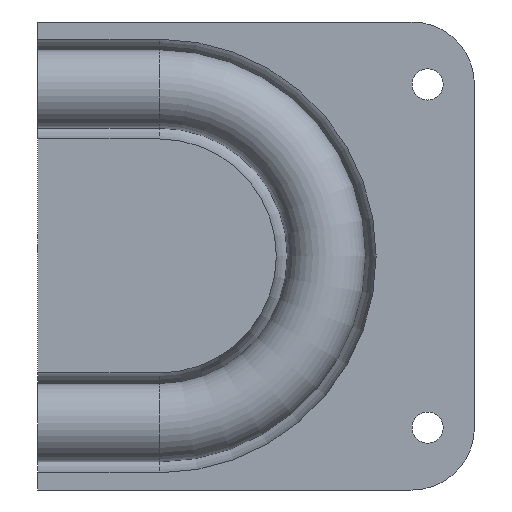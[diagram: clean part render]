
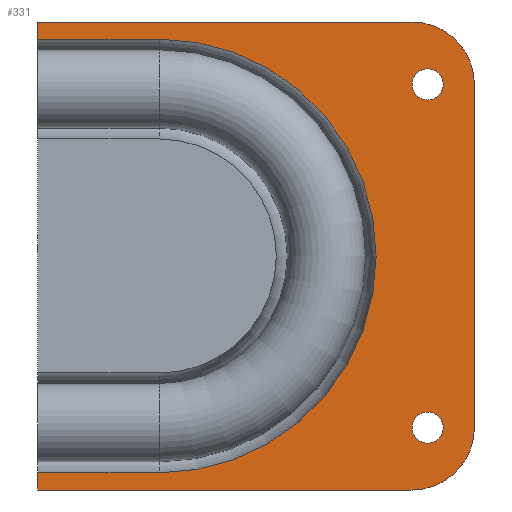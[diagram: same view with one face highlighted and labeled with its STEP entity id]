
A CAD part, left-side view. The second image highlights one B-rep face of the part: STEP entity #331.
In plain terms, the highlighted planar face has unit normal (-1, 0, 0).
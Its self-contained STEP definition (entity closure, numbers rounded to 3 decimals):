
#15=FACE_BOUND('',#67,.T.);
#16=FACE_BOUND('',#68,.T.);
#30=PLANE('',#379);
#47=FACE_OUTER_BOUND('',#66,.T.);
#66=EDGE_LOOP('',(#258,#259,#260,#261,#262,#263,#264,#265,#266,#267));
#67=EDGE_LOOP('',(#268));
#68=EDGE_LOOP('',(#269));
#86=LINE('',#553,#110);
#89=LINE('',#559,#113);
#90=LINE('',#563,#114);
#91=LINE('',#565,#115);
#92=LINE('',#567,#116);
#93=LINE('',#571,#117);
#94=LINE('',#572,#118);
#110=VECTOR('',#452,10.);
#113=VECTOR('',#457,10.);
#114=VECTOR('',#460,10.);
#115=VECTOR('',#461,10.);
#116=VECTOR('',#462,10.);
#117=VECTOR('',#465,10.);
#118=VECTOR('',#466,10.);
#135=CIRCLE('',#370,1.);
#137=CIRCLE('',#373,1.);
#140=CIRCLE('',#377,4.);
#141=CIRCLE('',#380,4.);
#142=CIRCLE('',#381,13.9);
#155=VERTEX_POINT('',#531);
#157=VERTEX_POINT('',#537);
#161=VERTEX_POINT('',#546);
#162=VERTEX_POINT('',#548);
#163=VERTEX_POINT('',#552);
#165=VERTEX_POINT('',#558);
#166=VERTEX_POINT('',#560);
#167=VERTEX_POINT('',#562);
#168=VERTEX_POINT('',#564);
#169=VERTEX_POINT('',#566);
#170=VERTEX_POINT('',#568);
#171=VERTEX_POINT('',#570);
#188=EDGE_CURVE('',#155,#155,#135,.T.);
#191=EDGE_CURVE('',#157,#157,#137,.T.);
#196=EDGE_CURVE('',#161,#162,#140,.T.);
#198=EDGE_CURVE('',#162,#163,#86,.T.);
#201=EDGE_CURVE('',#165,#161,#89,.T.);
#202=EDGE_CURVE('',#166,#165,#141,.T.);
#203=EDGE_CURVE('',#167,#166,#90,.T.);
#204=EDGE_CURVE('',#168,#167,#91,.T.);
#205=EDGE_CURVE('',#168,#169,#92,.F.);
#206=EDGE_CURVE('',#169,#170,#142,.F.);
#207=EDGE_CURVE('',#170,#171,#93,.F.);
#208=EDGE_CURVE('',#163,#171,#94,.T.);
#258=ORIENTED_EDGE('',*,*,#196,.F.);
#259=ORIENTED_EDGE('',*,*,#201,.F.);
#260=ORIENTED_EDGE('',*,*,#202,.F.);
#261=ORIENTED_EDGE('',*,*,#203,.F.);
#262=ORIENTED_EDGE('',*,*,#204,.F.);
#263=ORIENTED_EDGE('',*,*,#205,.T.);
#264=ORIENTED_EDGE('',*,*,#206,.T.);
#265=ORIENTED_EDGE('',*,*,#207,.T.);
#266=ORIENTED_EDGE('',*,*,#208,.F.);
#267=ORIENTED_EDGE('',*,*,#198,.F.);
#268=ORIENTED_EDGE('',*,*,#188,.T.);
#269=ORIENTED_EDGE('',*,*,#191,.T.);
#331=ADVANCED_FACE('',(#47,#15,#16),#30,.F.);
#370=AXIS2_PLACEMENT_3D('',#532,#430,#431);
#373=AXIS2_PLACEMENT_3D('',#538,#437,#438);
#377=AXIS2_PLACEMENT_3D('',#549,#447,#448);
#379=AXIS2_PLACEMENT_3D('',#557,#455,#456);
#380=AXIS2_PLACEMENT_3D('',#561,#458,#459);
#381=AXIS2_PLACEMENT_3D('',#569,#463,#464);
#430=DIRECTION('center_axis',(1.,0.,0.));
#431=DIRECTION('ref_axis',(0.,-1.,0.));
#437=DIRECTION('center_axis',(1.,0.,0.));
#438=DIRECTION('ref_axis',(0.,-1.,0.));
#447=DIRECTION('center_axis',(1.,0.,0.));
#448=DIRECTION('ref_axis',(0.,-0.707,-0.707));
#452=DIRECTION('',(0.,1.,0.));
#455=DIRECTION('center_axis',(1.,0.,0.));
#456=DIRECTION('ref_axis',(0.,1.,0.));
#457=DIRECTION('',(0.,0.,-1.));
#458=DIRECTION('center_axis',(1.,0.,0.));
#459=DIRECTION('ref_axis',(0.,-0.707,0.707));
#460=DIRECTION('',(0.,-1.,0.));
#461=DIRECTION('',(0.,0.,1.));
#462=DIRECTION('',(0.,1.,0.));
#463=DIRECTION('center_axis',(-1.,0.,0.));
#464=DIRECTION('ref_axis',(0.,0.,-1.));
#465=DIRECTION('',(0.,-1.,0.));
#466=DIRECTION('',(0.,0.,1.));
#531=CARTESIAN_POINT('',(0.,-16.2,11.));
#532=CARTESIAN_POINT('Origin',(0.,-17.2,11.));
#537=CARTESIAN_POINT('',(0.,-16.2,-11.));
#538=CARTESIAN_POINT('Origin',(0.,-17.2,-11.));
#546=CARTESIAN_POINT('',(0.,-20.2,-11.));
#548=CARTESIAN_POINT('',(0.,-16.2,-15.));
#549=CARTESIAN_POINT('Origin',(0.,-16.2,-11.));
#552=CARTESIAN_POINT('',(0.,7.8,-15.));
#553=CARTESIAN_POINT('',(0.,-20.2,-15.));
#557=CARTESIAN_POINT('Origin',(0.,-6.2,0.));
#558=CARTESIAN_POINT('',(0.,-20.2,11.));
#559=CARTESIAN_POINT('',(0.,-20.2,15.));
#560=CARTESIAN_POINT('',(0.,-16.2,15.));
#561=CARTESIAN_POINT('Origin',(0.,-16.2,11.));
#562=CARTESIAN_POINT('',(0.,7.8,15.));
#563=CARTESIAN_POINT('',(0.,7.8,15.));
#564=CARTESIAN_POINT('',(0.,7.8,13.9));
#565=CARTESIAN_POINT('',(0.,7.8,-15.));
#566=CARTESIAN_POINT('',(0.,0.,13.9));
#567=CARTESIAN_POINT('',(0.,7.8,13.9));
#568=CARTESIAN_POINT('',(0.,0.,-13.9));
#569=CARTESIAN_POINT('Origin',(0.,0.,0.));
#570=CARTESIAN_POINT('',(0.,7.8,-13.9));
#571=CARTESIAN_POINT('',(0.,0.,-13.9));
#572=CARTESIAN_POINT('',(0.,7.8,-15.));
